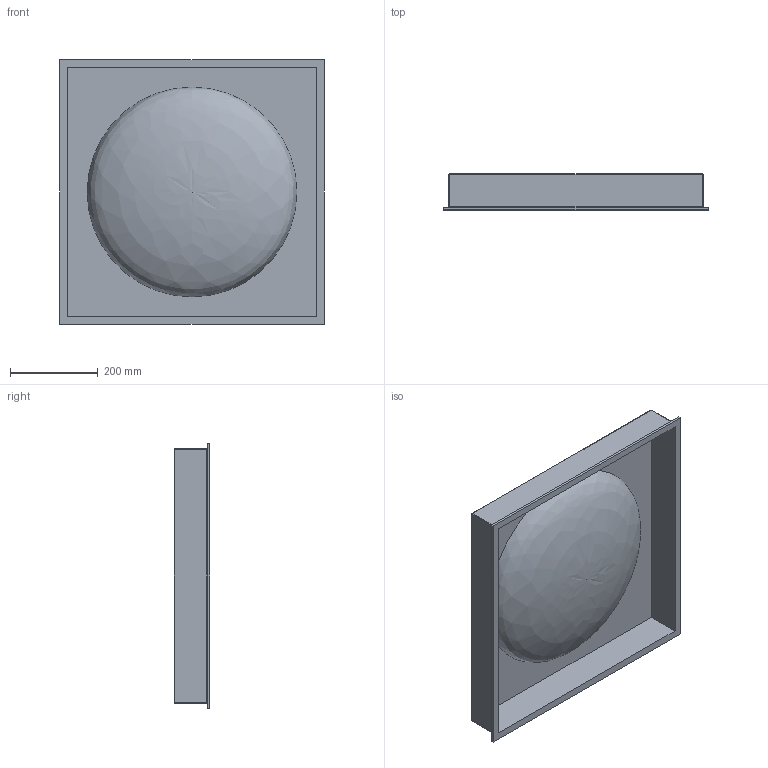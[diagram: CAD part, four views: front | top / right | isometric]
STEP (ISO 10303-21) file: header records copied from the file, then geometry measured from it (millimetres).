
FILE_DESCRIPTION(/* description */ (''),/* implementation_level */ '2;1');
FILE_NAME(/* name */ 'W:\Customers\Welformed unVerb\Design\2019 January Show Ceiling Tile Protos_\Part Design\Deep Dish Ceiling Tile.stp',/* time_stamp */ '2022-02-10T09:43:51-05:00',/* author */ ('austinh'),/* organization */ (''),/* preprocessor_version */ 'ST-DEVELOPER v18',/* originating_system */ 'Autodesk Inventor 2020',/* authorisation */ '');
FILE_SCHEMA (('AUTOMOTIVE_DESIGN { 1 0 10303 214 3 1 1 }'));
Length unit declared in the file: inch
Products named in the file (1): Sphere Depression Ceiling Tile
Bounding box: 601.98 x 81.2 x 601.98 mm (x, y, z)
Volume: 2862891.9 mm3; surface area: 1153354.5 mm2
Topology: 1 solids, 1 shells, 40 faces, 88 edges, 52 vertices
Faces by surface type: plane 16, cylinder 13, torus 5, sphere 4, bspline 2
Full cylindrical faces by diameter (mm): 466.86 x1
Entity records: 1575 total; most frequent: CARTESIAN_POINT 603, DIRECTION 199, ORIENTED_EDGE 172, EDGE_CURVE 86, AXIS2_PLACEMENT_3D 75, VERTEX_POINT 52, LINE 49, VECTOR 49
